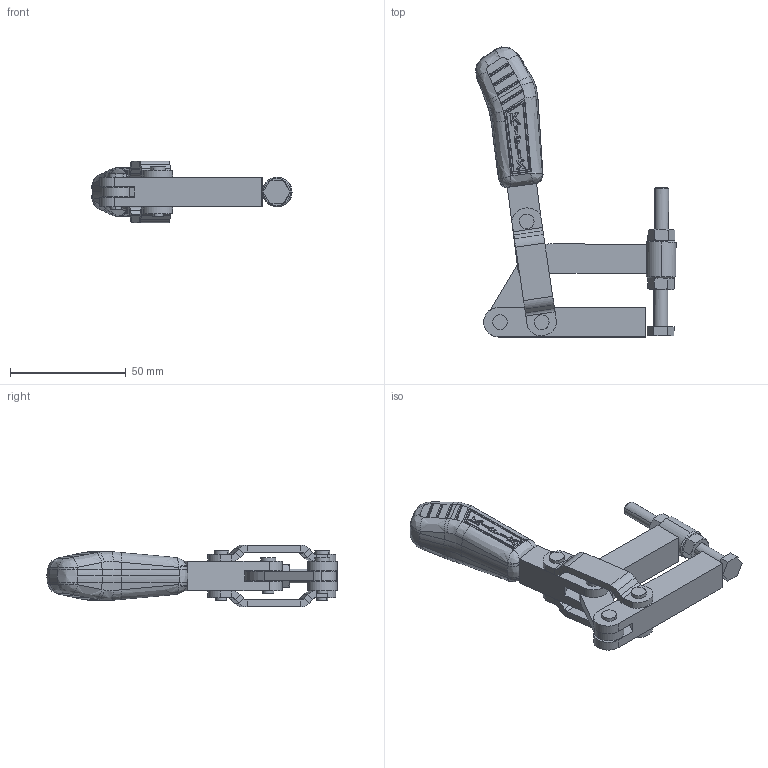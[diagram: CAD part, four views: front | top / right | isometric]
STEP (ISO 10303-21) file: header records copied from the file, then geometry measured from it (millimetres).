
FILE_DESCRIPTION (( 'STEP AP203' ), '1' );
FILE_NAME ('KF-01 MP.STEP', '2015-07-16T19:05:13', ( 'Ricardo' ), ( '' ), 'SwSTEP 2.0', 'SolidWorks 2014', '' );
FILE_SCHEMA (( 'CONFIG_CONTROL_DESIGN' ));
Length unit declared in the file: millimetre
Products named in the file (12): 07.60005; 01.20011; KF-01 MP; 08.10035; 06.50025; 02.10021; 06.50004; 03.15015_Montagem; 20.20008; 11.50001; 12.50019; PSB-M6
Assembly tree (15 placements, depth 3):
  KF-01 MP
    02.10021
    03.15015_Montagem
    01.20011
    08.10035  x2
    06.50025  x2
    06.50004  x2
    PSB-M6
      20.20008
      11.50001  x2
      12.50019
    07.60005
Bounding box: 86.33 x 125.13 x 26.7 mm (x, y, z)
Volume: 52932.1 mm3; surface area: 27418.3 mm2
Topology: 14 solids, 14 shells, 877 faces, 2181 edges, 1347 vertices
Faces by surface type: bspline 269, cylinder 256, plane 248, cone 52, sphere 50, torus 2
Entity records: 31674 total; most frequent: CARTESIAN_POINT 13959, ORIENTED_EDGE 3970, DIRECTION 2646, EDGE_CURVE 1985, VERTEX_POINT 1241, AXIS2_PLACEMENT_3D 980, EDGE_LOOP 834, ADVANCED_FACE 787
